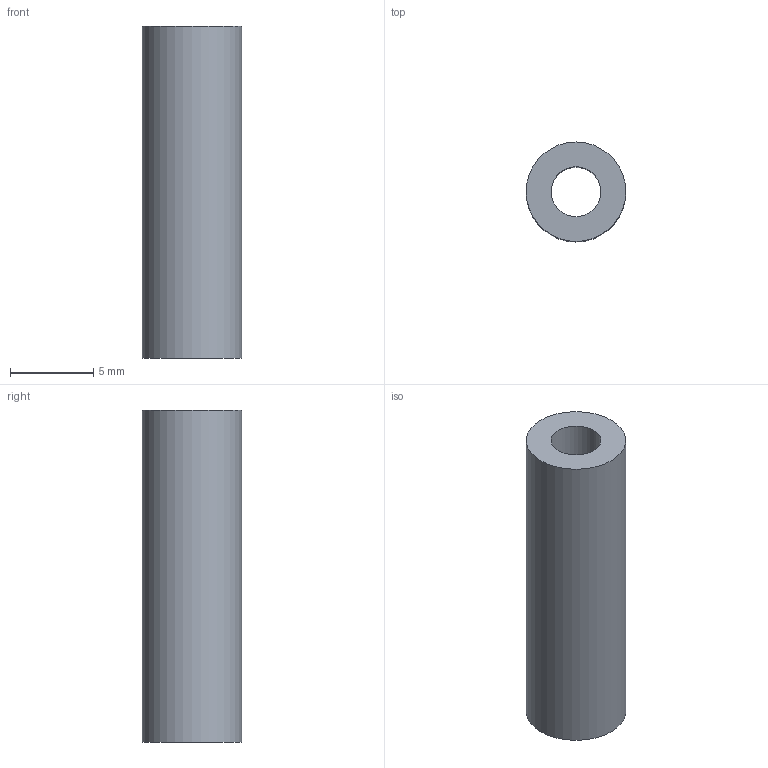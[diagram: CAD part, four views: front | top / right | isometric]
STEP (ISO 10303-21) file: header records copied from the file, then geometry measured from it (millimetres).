
FILE_DESCRIPTION(('Open CASCADE Model'),'2;1');
FILE_NAME('Open CASCADE Shape Model','2026-10-06T17:17:59',('Author'),( 'Open CASCADE'),'Open CASCADE STEP processor 7.8','Open CASCADE 7.8' ,'Unknown');
FILE_SCHEMA(('AUTOMOTIVE_DESIGN { 1 0 10303 214 1 1 1 1 }'));
Length unit declared in the file: millimetre
Products named in the file (1): Open CASCADE STEP translator 7.8 4
Bounding box: 6 x 6 x 20 mm (x, y, z)
Volume: 424.1 mm3; surface area: 607.9 mm2
Topology: 1 solids, 1 shells, 4 faces, 6 edges, 4 vertices
Faces by surface type: cylinder 2, plane 2
Full cylindrical faces by diameter (mm): 3 x1, 6 x1
Entity records: 186 total; most frequent: DIRECTION 32, CARTESIAN_POINT 27, ORIENTED_EDGE 12, PCURVE 12, DEFINITIONAL_REPRESENTATION 12, LINE 10, VECTOR 10, AXIS2_PLACEMENT_3D 9
